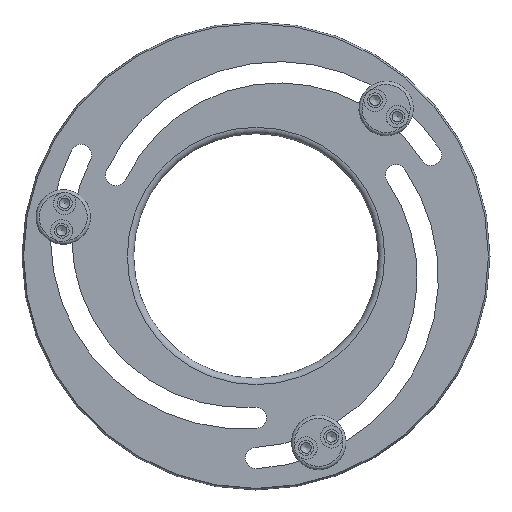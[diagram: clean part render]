
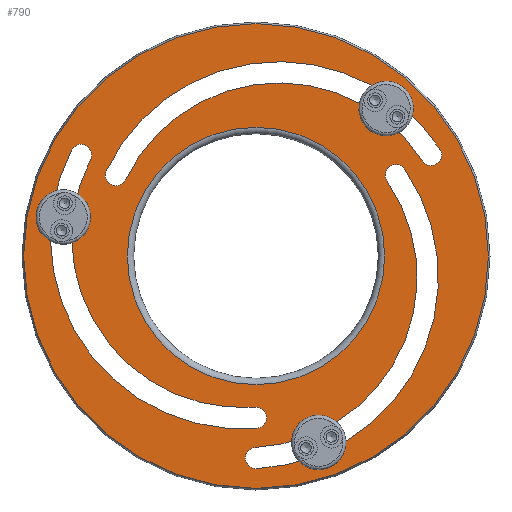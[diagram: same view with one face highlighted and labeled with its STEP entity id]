
A CAD part, front view. The second image highlights one B-rep face of the part: STEP entity #790.
In plain terms, the highlighted planar face has unit normal (0, -1, 0).
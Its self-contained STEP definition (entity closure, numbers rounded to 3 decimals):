
#54=FACE_BOUND('',#217,.T.);
#55=FACE_BOUND('',#218,.T.);
#56=FACE_BOUND('',#219,.T.);
#57=FACE_BOUND('',#220,.T.);
#70=PLANE('',#927);
#169=FACE_OUTER_BOUND('',#216,.T.);
#216=EDGE_LOOP('',(#557));
#217=EDGE_LOOP('',(#558,#559,#560,#561));
#218=EDGE_LOOP('',(#562,#563,#564,#565));
#219=EDGE_LOOP('',(#566,#567,#568,#569));
#220=EDGE_LOOP('',(#570));
#279=CIRCLE('',#922,60.5);
#283=CIRCLE('',#928,109.236);
#284=CIRCLE('',#929,5.);
#285=CIRCLE('',#930,80.);
#286=CIRCLE('',#931,5.);
#287=CIRCLE('',#932,90.);
#288=CIRCLE('',#933,5.);
#289=CIRCLE('',#934,90.);
#290=CIRCLE('',#935,5.);
#291=CIRCLE('',#936,80.);
#292=CIRCLE('',#937,5.);
#293=CIRCLE('',#938,90.);
#294=CIRCLE('',#939,5.);
#295=CIRCLE('',#940,80.);
#359=VERTEX_POINT('',#1367);
#362=VERTEX_POINT('',#1378);
#363=VERTEX_POINT('',#1380);
#364=VERTEX_POINT('',#1381);
#365=VERTEX_POINT('',#1383);
#366=VERTEX_POINT('',#1385);
#367=VERTEX_POINT('',#1388);
#368=VERTEX_POINT('',#1389);
#369=VERTEX_POINT('',#1391);
#370=VERTEX_POINT('',#1393);
#371=VERTEX_POINT('',#1396);
#372=VERTEX_POINT('',#1397);
#373=VERTEX_POINT('',#1399);
#374=VERTEX_POINT('',#1401);
#435=EDGE_CURVE('',#359,#359,#279,.T.);
#440=EDGE_CURVE('',#362,#362,#283,.T.);
#441=EDGE_CURVE('',#363,#364,#284,.T.);
#442=EDGE_CURVE('',#364,#365,#285,.T.);
#443=EDGE_CURVE('',#365,#366,#286,.T.);
#444=EDGE_CURVE('',#366,#363,#287,.T.);
#445=EDGE_CURVE('',#367,#368,#288,.T.);
#446=EDGE_CURVE('',#368,#369,#289,.T.);
#447=EDGE_CURVE('',#369,#370,#290,.T.);
#448=EDGE_CURVE('',#370,#367,#291,.T.);
#449=EDGE_CURVE('',#371,#372,#292,.T.);
#450=EDGE_CURVE('',#372,#373,#293,.T.);
#451=EDGE_CURVE('',#373,#374,#294,.T.);
#452=EDGE_CURVE('',#374,#371,#295,.T.);
#557=ORIENTED_EDGE('',*,*,#440,.F.);
#558=ORIENTED_EDGE('',*,*,#441,.T.);
#559=ORIENTED_EDGE('',*,*,#442,.T.);
#560=ORIENTED_EDGE('',*,*,#443,.T.);
#561=ORIENTED_EDGE('',*,*,#444,.T.);
#562=ORIENTED_EDGE('',*,*,#445,.T.);
#563=ORIENTED_EDGE('',*,*,#446,.T.);
#564=ORIENTED_EDGE('',*,*,#447,.T.);
#565=ORIENTED_EDGE('',*,*,#448,.T.);
#566=ORIENTED_EDGE('',*,*,#449,.T.);
#567=ORIENTED_EDGE('',*,*,#450,.T.);
#568=ORIENTED_EDGE('',*,*,#451,.T.);
#569=ORIENTED_EDGE('',*,*,#452,.T.);
#570=ORIENTED_EDGE('',*,*,#435,.F.);
#790=ADVANCED_FACE('',(#169,#54,#55,#56,#57),#70,.T.);
#922=AXIS2_PLACEMENT_3D('',#1369,#1065,#1066);
#927=AXIS2_PLACEMENT_3D('',#1377,#1076,#1077);
#928=AXIS2_PLACEMENT_3D('',#1379,#1078,#1079);
#929=AXIS2_PLACEMENT_3D('',#1382,#1080,#1081);
#930=AXIS2_PLACEMENT_3D('',#1384,#1082,#1083);
#931=AXIS2_PLACEMENT_3D('',#1386,#1084,#1085);
#932=AXIS2_PLACEMENT_3D('',#1387,#1086,#1087);
#933=AXIS2_PLACEMENT_3D('',#1390,#1088,#1089);
#934=AXIS2_PLACEMENT_3D('',#1392,#1090,#1091);
#935=AXIS2_PLACEMENT_3D('',#1394,#1092,#1093);
#936=AXIS2_PLACEMENT_3D('',#1395,#1094,#1095);
#937=AXIS2_PLACEMENT_3D('',#1398,#1096,#1097);
#938=AXIS2_PLACEMENT_3D('',#1400,#1098,#1099);
#939=AXIS2_PLACEMENT_3D('',#1402,#1100,#1101);
#940=AXIS2_PLACEMENT_3D('',#1403,#1102,#1103);
#1065=DIRECTION('center_axis',(0.,-1.,0.));
#1066=DIRECTION('ref_axis',(1.,0.,0.));
#1076=DIRECTION('center_axis',(0.,-1.,0.));
#1077=DIRECTION('ref_axis',(0.,0.,-1.));
#1078=DIRECTION('center_axis',(0.,1.,0.));
#1079=DIRECTION('ref_axis',(0.,0.,-1.));
#1080=DIRECTION('center_axis',(0.,1.,0.));
#1081=DIRECTION('ref_axis',(-0.89,0.,0.456));
#1082=DIRECTION('center_axis',(0.,-1.,0.));
#1083=DIRECTION('ref_axis',(-0.078,0.,0.997));
#1084=DIRECTION('center_axis',(0.,1.,0.));
#1085=DIRECTION('ref_axis',(-0.078,0.,0.997));
#1086=DIRECTION('center_axis',(0.,1.,0.));
#1087=DIRECTION('ref_axis',(0.078,0.,-0.997));
#1088=DIRECTION('center_axis',(0.,1.,0.));
#1089=DIRECTION('ref_axis',(0.902,0.,-0.431));
#1090=DIRECTION('center_axis',(0.,1.,0.));
#1091=DIRECTION('ref_axis',(-0.902,0.,0.431));
#1092=DIRECTION('center_axis',(0.,1.,0.));
#1093=DIRECTION('ref_axis',(0.84,0.,0.543));
#1094=DIRECTION('center_axis',(0.,-1.,0.));
#1095=DIRECTION('ref_axis',(0.902,0.,-0.431));
#1096=DIRECTION('center_axis',(0.,1.,0.));
#1097=DIRECTION('ref_axis',(-0.824,0.,-0.566));
#1098=DIRECTION('center_axis',(0.,1.,0.));
#1099=DIRECTION('ref_axis',(0.824,0.,0.566));
#1100=DIRECTION('center_axis',(0.,1.,0.));
#1101=DIRECTION('ref_axis',(0.05,0.,-0.999));
#1102=DIRECTION('center_axis',(0.,-1.,0.));
#1103=DIRECTION('ref_axis',(-0.824,0.,-0.566));
#1367=CARTESIAN_POINT('',(0.,-6.,60.5));
#1369=CARTESIAN_POINT('Origin',(0.,-6.,0.));
#1377=CARTESIAN_POINT('Origin',(24.939,-6.,9.643));
#1378=CARTESIAN_POINT('',(0.,-6.,109.236));
#1379=CARTESIAN_POINT('Origin',(0.,-6.,0.));
#1380=CARTESIAN_POINT('',(-86.722,-6.,49.78));
#1381=CARTESIAN_POINT('',(-77.822,-6.,45.22));
#1382=CARTESIAN_POINT('Origin',(-82.272,-6.,47.5));
#1383=CARTESIAN_POINT('',(-0.39,-6.,-71.015));
#1384=CARTESIAN_POINT('Origin',(-6.623,-6.,8.742));
#1385=CARTESIAN_POINT('',(0.39,-6.,-80.985));
#1386=CARTESIAN_POINT('Origin',(0.,-6.,-76.));
#1387=CARTESIAN_POINT('Origin',(-6.623,-6.,8.742));
#1388=CARTESIAN_POINT('',(-61.306,-6.,35.845));
#1389=CARTESIAN_POINT('',(-70.33,-6.,40.155));
#1390=CARTESIAN_POINT('Origin',(-65.818,-6.,38.));
#1391=CARTESIAN_POINT('',(86.472,-6.,50.214));
#1392=CARTESIAN_POINT('Origin',(10.882,-6.,1.365));
#1393=CARTESIAN_POINT('',(78.073,-6.,44.786));
#1394=CARTESIAN_POINT('Origin',(82.272,-6.,47.5));
#1395=CARTESIAN_POINT('Origin',(10.882,-6.,1.365));
#1396=CARTESIAN_POINT('',(61.696,-6.,35.17));
#1397=CARTESIAN_POINT('',(69.94,-6.,40.83));
#1398=CARTESIAN_POINT('Origin',(65.818,-6.,38.));
#1399=CARTESIAN_POINT('',(0.251,-6.,-99.994));
#1400=CARTESIAN_POINT('Origin',(-4.259,-6.,-10.107));
#1401=CARTESIAN_POINT('',(-0.251,-6.,-90.006));
#1402=CARTESIAN_POINT('Origin',(0.,-6.,-95.));
#1403=CARTESIAN_POINT('Origin',(-4.259,-6.,-10.107));
